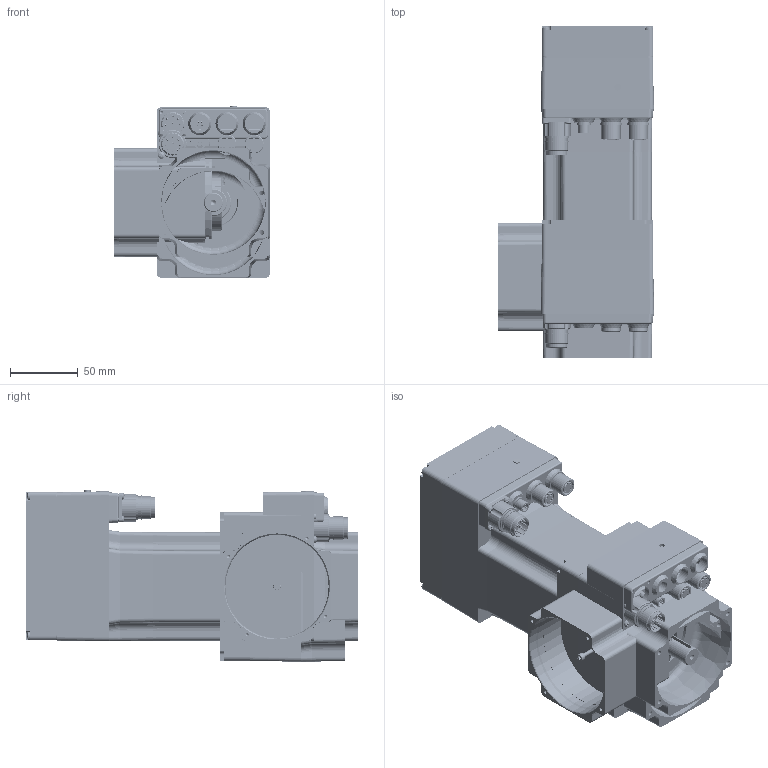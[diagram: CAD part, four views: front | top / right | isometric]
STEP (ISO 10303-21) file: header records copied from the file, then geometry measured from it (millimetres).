
FILE_DESCRIPTION( ( 'Unknown' ), '1' );
FILE_NAME( 'C:/Users/dotti/Desktop/Q0B215/Q0B215 1,5.stp', 'Unknown', ( 'Unknown' ), ( 'Unknown' ), 'PSStep 14.0', 'Unknown', ' ' );
FILE_SCHEMA( ( 'AUTOMOTIVE_DESIGN { 1 0 10303 214 1 1 1 1 }' ) );
Length unit declared in the file: millimetre
Products named in the file (43): Assem1; T00272; 005117000974; N54236; CN M23 PAN-POT BEGA 906 4+5p; VECST-8112 M  2,5 x 12; G00030_ethercat; N33250; LI-PIA   5x5 x 25; CUSC_20_42_12_6004_ZZ; CUSC_15_32_9_6002_ZZ; Anello-elastico-chiuso  42; a-ela  20; N09281; Anello-elastico-chiuso  32; Vite a brugola testa cil 8,8 -  M  3 x 25; Vite a brugola testa cil 8,8 -  M  3 x 25-oa0; Vite a brugola testa cil 8,8 -  M  3 x 25-oa1; Vite a brugola testa cil 8,8 -  M  3 x 25-oa2; Vite a brugola testa cil 8,8 -  M  3 x 40; Vite a brugola testa cil 8,8 -  M  3 x 40-oa3; Vite a brugola testa cil 8,8 -  M  3 x 40-oa4; Vite a brugola testa cil 8,8 -  M  3 x 40-oa5; N35217; VECST-8112 M  3 x 30; 003016000054; N01382; N54239
Bounding box: 114.5 x 244.13 x 126.21 mm (x, y, z)
Volume: 1065970.8 mm3; surface area: 530792.3 mm2
Topology: 99 solids, 103 shells, 6878 faces, 18618 edges, 12197 vertices
Faces by surface type: plane 3720, cylinder 2340, bspline 283, cone 271, torus 211, sphere 53
Full cylindrical faces by diameter (mm): 1 x39, 1.5 x12, 1.6 x45, 2 x4, 2.4 x24, 2.459 x42, 2.5 x17, 2.7 x12, 3 x21, 3.5 x40, 4 x5, 4.2 x4, 5 x11, 5.5 x16, 6 x28, 8 x17, 8.5 x9, 8.75 x3, 9 x8, 10 x3, 11 x15, 11.9 x5, 12 x6, 14 x7, 14.4 x3, 14.5 x3, 15 x4, 15.6 x3, 16 x5, 16.5 x3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
Entity records: 87118 total; most frequent: CARTESIAN_POINT 23731, DIRECTION 10497, ORIENTED_EDGE 10390, EDGE_CURVE 5195, AXIS2_PLACEMENT_3D 3867, VERTEX_POINT 3564, LINE 2763, VECTOR 2763
